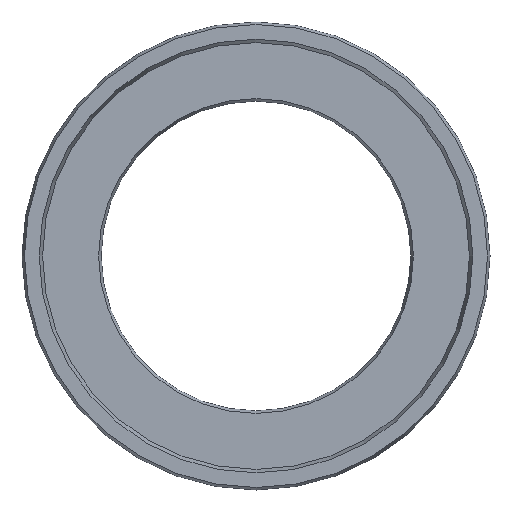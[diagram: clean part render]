
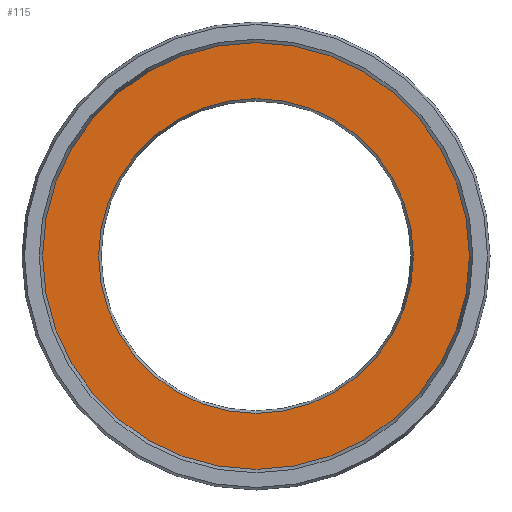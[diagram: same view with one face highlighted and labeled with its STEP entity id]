
A CAD part, left-side view. The second image highlights one B-rep face of the part: STEP entity #115.
In plain terms, the highlighted planar face has unit normal (-1, 0, 0).
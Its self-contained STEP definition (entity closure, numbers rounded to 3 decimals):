
#115=ADVANCED_FACE('',(#149,#150),#141,.F.);
#141=PLANE('',#386);
#149=FACE_BOUND('',#201,.T.);
#150=FACE_BOUND('',#202,.T.);
#201=EDGE_LOOP('',(#253));
#202=EDGE_LOOP('',(#254));
#253=ORIENTED_EDGE('',*,*,#331,.T.);
#254=ORIENTED_EDGE('',*,*,#332,.T.);
#305=VERTEX_POINT('',#544);
#306=VERTEX_POINT('',#546);
#331=EDGE_CURVE('',#305,#305,#357,.T.);
#332=EDGE_CURVE('',#306,#306,#358,.T.);
#357=CIRCLE('',#384,22.864);
#358=CIRCLE('',#385,31.);
#384=AXIS2_PLACEMENT_3D('',#543,#438,#439);
#385=AXIS2_PLACEMENT_3D('',#545,#440,#441);
#386=AXIS2_PLACEMENT_3D('',#547,#442,#443);
#438=DIRECTION('',(1.,0.,0.));
#439=DIRECTION('',(0.,0.,-1.));
#440=DIRECTION('',(-1.,0.,0.));
#441=DIRECTION('',(0.,0.,1.));
#442=DIRECTION('',(1.,0.,0.));
#443=DIRECTION('',(0.,0.,-1.));
#543=CARTESIAN_POINT('',(0.,0.,0.));
#544=CARTESIAN_POINT('',(0.,0.,-22.864));
#545=CARTESIAN_POINT('',(0.,0.,0.));
#546=CARTESIAN_POINT('',(0.,0.,31.));
#547=CARTESIAN_POINT('',(0.,31.,0.));
